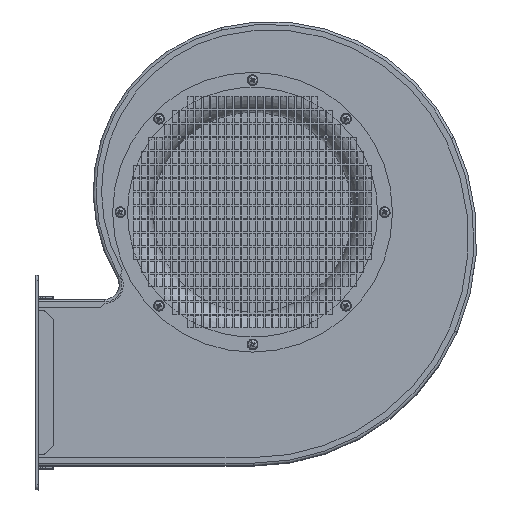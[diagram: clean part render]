
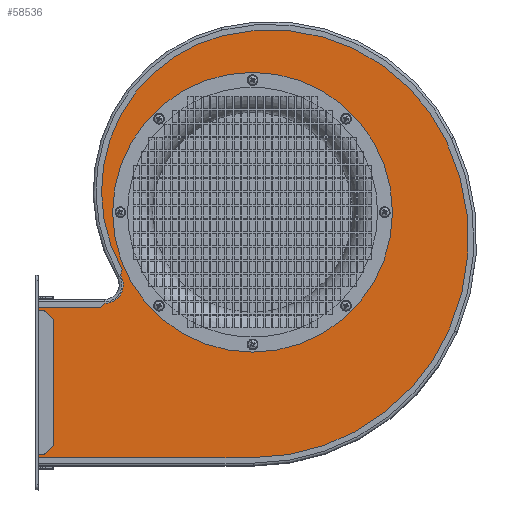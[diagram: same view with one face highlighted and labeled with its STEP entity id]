
A CAD part, top view. The second image highlights one B-rep face of the part: STEP entity #58536.
In plain terms, the highlighted planar face has unit normal (0, 0, 1).
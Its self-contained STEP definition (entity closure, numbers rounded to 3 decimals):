
#1394=FACE_BOUND('',#12712,.T.);
#1850=CIRCLE('',#61483,117.5);
#1851=CIRCLE('',#61485,179.933);
#1852=CIRCLE('',#61486,190.166);
#1853=CIRCLE('',#61487,163.891);
#1854=CIRCLE('',#61488,134.571);
#1855=CIRCLE('',#61489,15.5);
#6333=PLANE('',#61484);
#9015=FACE_OUTER_BOUND('',#12711,.T.);
#12711=EDGE_LOOP('',(#54971,#54972,#54973,#54974,#54975,#54976,#54977,#54978,
#54979,#54980));
#12712=EDGE_LOOP('',(#54981));
#13409=LINE('',#86402,#19735);
#19003=LINE('',#101458,#25329);
#19004=LINE('',#101468,#25330);
#19005=LINE('',#101472,#25331);
#19006=LINE('',#101473,#25332);
#19735=VECTOR('',#62702,10.);
#25329=VECTOR('',#73482,10.);
#25330=VECTOR('',#73491,10.);
#25331=VECTOR('',#73494,10.);
#25332=VECTOR('',#73495,10.);
#27270=VERTEX_POINT('',#86399);
#27271=VERTEX_POINT('',#86401);
#31483=VERTEX_POINT('',#101454);
#31484=VERTEX_POINT('',#101457);
#31485=VERTEX_POINT('',#101459);
#31486=VERTEX_POINT('',#101461);
#31487=VERTEX_POINT('',#101463);
#31488=VERTEX_POINT('',#101465);
#31489=VERTEX_POINT('',#101467);
#31490=VERTEX_POINT('',#101469);
#31491=VERTEX_POINT('',#101471);
#33011=EDGE_CURVE('',#27270,#27271,#13409,.T.);
#39348=EDGE_CURVE('',#31483,#31483,#1850,.T.);
#39349=EDGE_CURVE('',#27270,#31484,#19003,.T.);
#39350=EDGE_CURVE('',#31484,#31485,#1851,.T.);
#39351=EDGE_CURVE('',#31485,#31486,#1852,.T.);
#39352=EDGE_CURVE('',#31486,#31487,#1853,.T.);
#39353=EDGE_CURVE('',#31487,#31488,#1854,.T.);
#39354=EDGE_CURVE('',#31488,#31489,#19004,.T.);
#39355=EDGE_CURVE('',#31489,#31490,#1855,.T.);
#39356=EDGE_CURVE('',#31490,#31491,#19005,.T.);
#39357=EDGE_CURVE('',#31491,#27271,#19006,.T.);
#54971=ORIENTED_EDGE('',*,*,#39349,.T.);
#54972=ORIENTED_EDGE('',*,*,#39350,.T.);
#54973=ORIENTED_EDGE('',*,*,#39351,.T.);
#54974=ORIENTED_EDGE('',*,*,#39352,.T.);
#54975=ORIENTED_EDGE('',*,*,#39353,.T.);
#54976=ORIENTED_EDGE('',*,*,#39354,.T.);
#54977=ORIENTED_EDGE('',*,*,#39355,.T.);
#54978=ORIENTED_EDGE('',*,*,#39356,.T.);
#54979=ORIENTED_EDGE('',*,*,#39357,.T.);
#54980=ORIENTED_EDGE('',*,*,#33011,.F.);
#54981=ORIENTED_EDGE('',*,*,#39348,.T.);
#58536=ADVANCED_FACE('',(#9015,#1394),#6333,.T.);
#61483=AXIS2_PLACEMENT_3D('',#101455,#73478,#73479);
#61484=AXIS2_PLACEMENT_3D('',#101456,#73480,#73481);
#61485=AXIS2_PLACEMENT_3D('',#101460,#73483,#73484);
#61486=AXIS2_PLACEMENT_3D('',#101462,#73485,#73486);
#61487=AXIS2_PLACEMENT_3D('',#101464,#73487,#73488);
#61488=AXIS2_PLACEMENT_3D('',#101466,#73489,#73490);
#61489=AXIS2_PLACEMENT_3D('',#101470,#73492,#73493);
#62702=DIRECTION('',(0.,1.,0.));
#73478=DIRECTION('center_axis',(0.,0.,-1.));
#73479=DIRECTION('ref_axis',(-1.,0.,0.));
#73480=DIRECTION('center_axis',(0.,0.,1.));
#73481=DIRECTION('ref_axis',(1.,0.,0.));
#73482=DIRECTION('',(1.,0.,0.));
#73483=DIRECTION('center_axis',(0.,0.,1.));
#73484=DIRECTION('ref_axis',(0.,1.,0.));
#73485=DIRECTION('center_axis',(0.,0.,1.));
#73486=DIRECTION('ref_axis',(-0.917,0.4,0.));
#73487=DIRECTION('center_axis',(0.,0.,1.));
#73488=DIRECTION('ref_axis',(-0.903,-0.43,0.));
#73489=DIRECTION('center_axis',(0.,0.,1.));
#73490=DIRECTION('ref_axis',(0.241,-0.971,0.));
#73491=DIRECTION('',(-0.244,-0.97,0.));
#73492=DIRECTION('center_axis',(0.,0.,-1.));
#73493=DIRECTION('ref_axis',(0.,1.,0.));
#73494=DIRECTION('',(-0.707,-0.707,0.));
#73495=DIRECTION('',(-1.,0.,0.));
#86399=CARTESIAN_POINT('',(-180.,-206.,123.));
#86401=CARTESIAN_POINT('',(-180.,-80.,123.));
#86402=CARTESIAN_POINT('',(-180.,-75.,123.));
#101454=CARTESIAN_POINT('',(-117.5,0.,123.));
#101455=CARTESIAN_POINT('Origin',(0.,0.,
123.));
#101456=CARTESIAN_POINT('Origin',(-7.561,-45.081,123.));
#101457=CARTESIAN_POINT('',(0.473,-206.,123.));
#101458=CARTESIAN_POINT('',(-3.544,-206.,123.));
#101459=CARTESIAN_POINT('',(165.383,-98.044,123.));
#101460=CARTESIAN_POINT('Origin',(0.473,-26.067,123.));
#101461=CARTESIAN_POINT('',(162.745,59.876,123.));
#101462=CARTESIAN_POINT('Origin',(-8.906,-21.974,123.));
#101463=CARTESIAN_POINT('',(-24.699,148.393,123.));
#101464=CARTESIAN_POINT('Origin',(14.811,-10.664,123.));
#101465=CARTESIAN_POINT('',(-109.546,-48.184,123.));
#101466=CARTESIAN_POINT('Origin',(7.743,17.791,123.));
#101467=CARTESIAN_POINT('',(-110.771,-53.048,123.));
#101468=CARTESIAN_POINT('',(-106.139,-34.651,123.));
#101469=CARTESIAN_POINT('',(-124.075,-76.5,123.));
#101470=CARTESIAN_POINT('Origin',(-124.075,-61.,123.));
#101471=CARTESIAN_POINT('',(-127.575,-80.,123.));
#101472=CARTESIAN_POINT('',(-87.092,-39.517,123.));
#101473=CARTESIAN_POINT('',(-93.781,-80.,123.));
